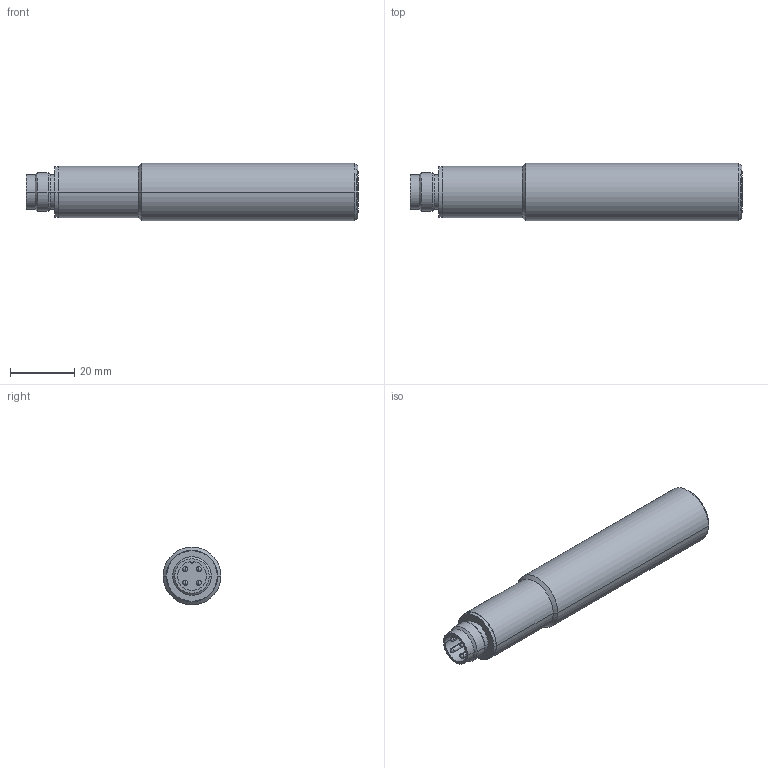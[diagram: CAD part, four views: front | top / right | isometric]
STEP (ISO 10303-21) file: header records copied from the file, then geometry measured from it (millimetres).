
FILE_DESCRIPTION((''),'2;1');
FILE_NAME('C:\Dokumente und Einstellungen\Kramp\Eigene Dateien\Microsonic Nacharb 1\STP\wms-25_RT_HV_M18.stp','2005-08-09T11:31:14',('Kramp'),(''),'Autodesk Inventor 7','Autodesk Inventor 7','');
FILE_SCHEMA(('AUTOMOTIVE_DESIGN { 1 0 10303 214 1 1 1 1 }'));
Length unit declared in the file: millimetre
Products named in the file (1): wms-25_RT_HV_M18
Bounding box: 103.3 x 18 x 18 mm (x, y, z)
Volume: 22995.9 mm3; surface area: 6329.8 mm2
Topology: 1 solids, 1 shells, 56 faces, 127 edges, 67 vertices
Faces by surface type: cylinder 30, cone 8, sphere 8, plane 8, torus 2
Entity records: 1483 total; most frequent: DIRECTION 298, CARTESIAN_POINT 235, ORIENTED_EDGE 222, AXIS2_PLACEMENT_3D 130, EDGE_CURVE 111, CIRCLE 73, VERTEX_POINT 67, EDGE_LOOP 66
